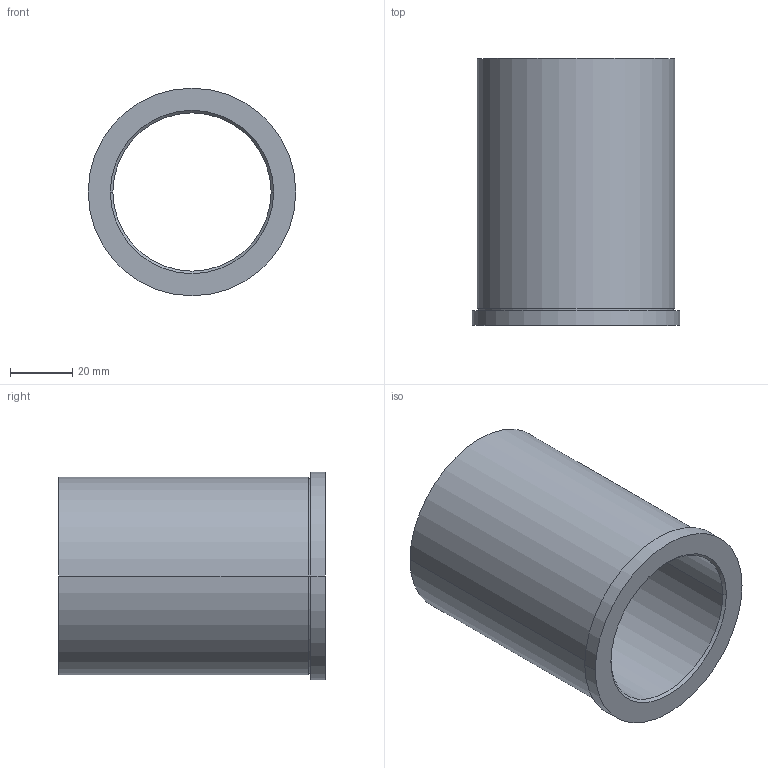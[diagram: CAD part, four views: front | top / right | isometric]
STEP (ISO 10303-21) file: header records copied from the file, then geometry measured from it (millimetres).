
FILE_DESCRIPTION (( 'STEP AP203' ), '1' );
FILE_NAME ('BU-605.step', '2014-02-27T03:07:16', ( '' ), ( '' ), 'SwSTEP 2.0', 'SolidWorks 2009', '' );
FILE_SCHEMA (( 'CONFIG_CONTROL_DESIGN' ));
Length unit declared in the file: inch
Products named in the file (1): BU-605
Bounding box: 66.67 x 85.72 x 66.67 mm (x, y, z)
Volume: 99085 mm3; surface area: 33783.9 mm2
Topology: 1 solids, 1 shells, 16 faces, 32 edges, 20 vertices
Faces by surface type: cylinder 8, plane 4, torus 2, cone 2
Entity records: 509 total; most frequent: DIRECTION 88, CARTESIAN_POINT 69, ORIENTED_EDGE 64, AXIS2_PLACEMENT_3D 39, EDGE_CURVE 32, CIRCLE 22, EDGE_LOOP 20, VERTEX_POINT 20
